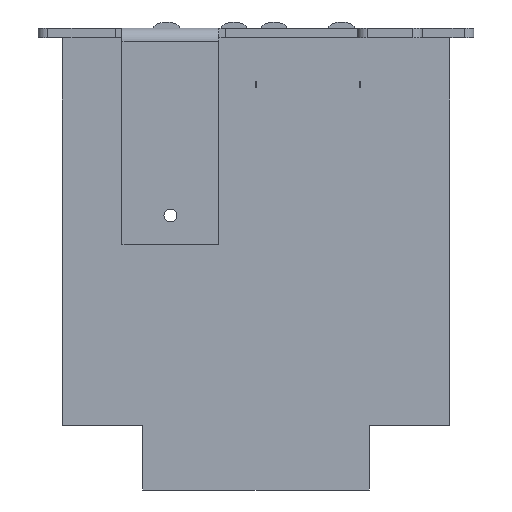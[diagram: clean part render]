
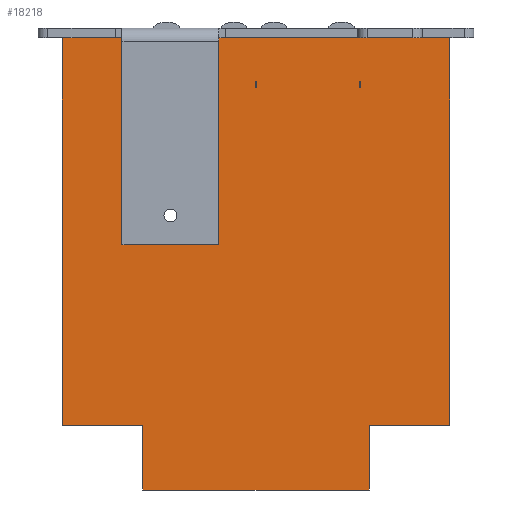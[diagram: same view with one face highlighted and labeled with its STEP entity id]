
A CAD part, front view. The second image highlights one B-rep face of the part: STEP entity #18218.
In plain terms, the highlighted planar face has unit normal (0, -1, 0).
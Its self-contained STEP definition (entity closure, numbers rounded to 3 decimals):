
#923 = ORIENTED_EDGE ( 'NONE', *, *, #43965, .T. ) ;
#1414 = VERTEX_POINT ( 'NONE', #7581 ) ;
#1913 = ORIENTED_EDGE ( 'NONE', *, *, #14734, .T. ) ;
#2068 = ORIENTED_EDGE ( 'NONE', *, *, #12891, .F. ) ;
#2088 = FACE_OUTER_BOUND ( 'NONE', #28113, .T. ) ;
#2645 = ORIENTED_EDGE ( 'NONE', *, *, #4198, .F. ) ;
#4198 = EDGE_CURVE ( 'NONE', #32226, #27513, #39902, .T. ) ;
#7350 = DIRECTION ( 'NONE',  ( -1., 0., 0. ) ) ;
#7581 = CARTESIAN_POINT ( 'NONE',  ( 0.123, 32.859, 16.581 ) ) ;
#7795 = CARTESIAN_POINT ( 'NONE',  ( 60.123, 32.859, 6.581 ) ) ;
#8599 = VECTOR ( 'NONE', #7350, 1000. ) ;
#9469 = CARTESIAN_POINT ( 'NONE',  ( 60.123, 32.859, 16.581 ) ) ;
#9535 = ORIENTED_EDGE ( 'NONE', *, *, #21629, .F. ) ;
#12891 = EDGE_CURVE ( 'NONE', #1414, #49255, #49332, .T. ) ;
#13429 = DIRECTION ( 'NONE',  ( 0., 0., 1. ) ) ;
#14112 = AXIS2_PLACEMENT_3D ( 'NONE', #42605, #37733, #45698 ) ;
#14123 = DIRECTION ( 'NONE',  ( 0., 0., 1. ) ) ;
#14734 = EDGE_CURVE ( 'NONE', #39477, #49255, #37423, .T. ) ;
#15075 = VECTOR ( 'NONE', #14123, 1000. ) ;
#15247 = DIRECTION ( 'NONE',  ( 0., 0., -1. ) ) ;
#15534 = DIRECTION ( 'NONE',  ( 0., 0., -1. ) ) ;
#17767 = CARTESIAN_POINT ( 'NONE',  ( 60.123, 32.859, 6.581 ) ) ;
#17936 = CARTESIAN_POINT ( 'NONE',  ( 47.623, 32.859, 16.581 ) ) ;
#18218 = ADVANCED_FACE ( 'NONE', ( #33701, #2088 ), #45263, .F. ) ;
#18467 = VECTOR ( 'NONE', #28335, 1000. ) ;
#18734 = AXIS2_PLACEMENT_3D ( 'NONE', #17767, #29591, #37796 ) ;
#18844 = LINE ( 'NONE', #23197, #37538 ) ;
#20471 = CARTESIAN_POINT ( 'NONE',  ( 0.123, 32.859, 76.581 ) ) ;
#21629 = EDGE_CURVE ( 'NONE', #49710, #48712, #33596, .T. ) ;
#21736 = DIRECTION ( 'NONE',  ( -1., 0., 0. ) ) ;
#22208 = VERTEX_POINT ( 'NONE', #45793 ) ;
#23021 = VECTOR ( 'NONE', #15534, 1000. ) ;
#23126 = EDGE_CURVE ( 'NONE', #24139, #32226, #39928, .T. ) ;
#23197 = CARTESIAN_POINT ( 'NONE',  ( 12.623, 32.859, 6.581 ) ) ;
#23716 = AXIS2_PLACEMENT_3D ( 'NONE', #48630, #25237, #13429 ) ;
#24139 = VERTEX_POINT ( 'NONE', #17936 ) ;
#24171 = VECTOR ( 'NONE', #40019, 1000. ) ;
#24331 = CARTESIAN_POINT ( 'NONE',  ( 60.123, 32.859, 6.581 ) ) ;
#25134 = DIRECTION ( 'NONE',  ( 1., 0., 0. ) ) ;
#25237 = DIRECTION ( 'NONE',  ( 0., -1., 0. ) ) ;
#26138 = ORIENTED_EDGE ( 'NONE', *, *, #23126, .F. ) ;
#26209 = CARTESIAN_POINT ( 'NONE',  ( 16.873, 32.859, 51.081 ) ) ;
#26997 = ORIENTED_EDGE ( 'NONE', *, *, #34597, .F. ) ;
#27513 = VERTEX_POINT ( 'NONE', #29184 ) ;
#28113 = EDGE_LOOP ( 'NONE', ( #33041, #44725, #1913, #2068, #49344, #923, #2645, #26138 ) ) ;
#28335 = DIRECTION ( 'NONE',  ( -1., 0., 0. ) ) ;
#28709 = EDGE_CURVE ( 'NONE', #1414, #22208, #32110, .T. ) ;
#29184 = CARTESIAN_POINT ( 'NONE',  ( 12.623, 32.859, 6.581 ) ) ;
#29591 = DIRECTION ( 'NONE',  ( 0., 1., 0. ) ) ;
#29708 = CIRCLE ( 'NONE', #14112, 2. ) ;
#30100 = CARTESIAN_POINT ( 'NONE',  ( 47.623, 32.859, 6.581 ) ) ;
#31284 = EDGE_CURVE ( 'NONE', #37885, #39477, #36180, .T. ) ;
#31453 = EDGE_CURVE ( 'NONE', #37885, #24139, #45899, .T. ) ;
#31541 = CARTESIAN_POINT ( 'NONE',  ( 60.123, 32.859, 76.581 ) ) ;
#32110 = LINE ( 'NONE', #9469, #49562 ) ;
#32226 = VERTEX_POINT ( 'NONE', #30100 ) ;
#32301 = CARTESIAN_POINT ( 'NONE',  ( 16.873, 32.859, 47.081 ) ) ;
#33041 = ORIENTED_EDGE ( 'NONE', *, *, #31453, .F. ) ;
#33596 = CIRCLE ( 'NONE', #23716, 2. ) ;
#33701 = FACE_BOUND ( 'NONE', #40956, .T. ) ;
#34420 = CARTESIAN_POINT ( 'NONE',  ( 0.123, 32.859, 6.581 ) ) ;
#34597 = EDGE_CURVE ( 'NONE', #48712, #49710, #29708, .T. ) ;
#36180 = LINE ( 'NONE', #24331, #24171 ) ;
#37423 = LINE ( 'NONE', #40771, #46418 ) ;
#37538 = VECTOR ( 'NONE', #15247, 1000. ) ;
#37733 = DIRECTION ( 'NONE',  ( 0., -1., 0. ) ) ;
#37796 = DIRECTION ( 'NONE',  ( 0., 0., 1. ) ) ;
#37885 = VERTEX_POINT ( 'NONE', #46771 ) ;
#39477 = VERTEX_POINT ( 'NONE', #31541 ) ;
#39902 = LINE ( 'NONE', #7795, #18467 ) ;
#39928 = LINE ( 'NONE', #44047, #23021 ) ;
#40019 = DIRECTION ( 'NONE',  ( 0., 0., 1. ) ) ;
#40771 = CARTESIAN_POINT ( 'NONE',  ( 60.123, 32.859, 76.581 ) ) ;
#40956 = EDGE_LOOP ( 'NONE', ( #26997, #9535 ) ) ;
#42299 = CARTESIAN_POINT ( 'NONE',  ( 60.123, 32.859, 16.581 ) ) ;
#42605 = CARTESIAN_POINT ( 'NONE',  ( 16.873, 32.859, 49.081 ) ) ;
#43965 = EDGE_CURVE ( 'NONE', #22208, #27513, #18844, .T. ) ;
#44047 = CARTESIAN_POINT ( 'NONE',  ( 47.623, 32.859, 6.581 ) ) ;
#44725 = ORIENTED_EDGE ( 'NONE', *, *, #31284, .T. ) ;
#45263 = PLANE ( 'NONE',  #18734 ) ;
#45698 = DIRECTION ( 'NONE',  ( 0., 0., 1. ) ) ;
#45793 = CARTESIAN_POINT ( 'NONE',  ( 12.623, 32.859, 16.581 ) ) ;
#45899 = LINE ( 'NONE', #42299, #8599 ) ;
#46418 = VECTOR ( 'NONE', #21736, 1000. ) ;
#46771 = CARTESIAN_POINT ( 'NONE',  ( 60.123, 32.859, 16.581 ) ) ;
#48630 = CARTESIAN_POINT ( 'NONE',  ( 16.873, 32.859, 49.081 ) ) ;
#48712 = VERTEX_POINT ( 'NONE', #32301 ) ;
#49255 = VERTEX_POINT ( 'NONE', #20471 ) ;
#49332 = LINE ( 'NONE', #34420, #15075 ) ;
#49344 = ORIENTED_EDGE ( 'NONE', *, *, #28709, .T. ) ;
#49562 = VECTOR ( 'NONE', #25134, 1000. ) ;
#49710 = VERTEX_POINT ( 'NONE', #26209 ) ;
